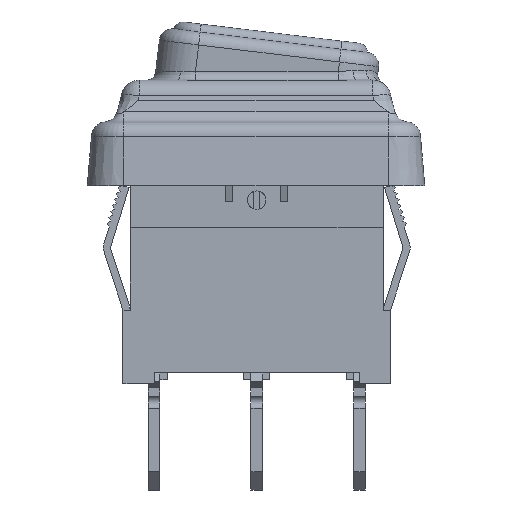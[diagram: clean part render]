
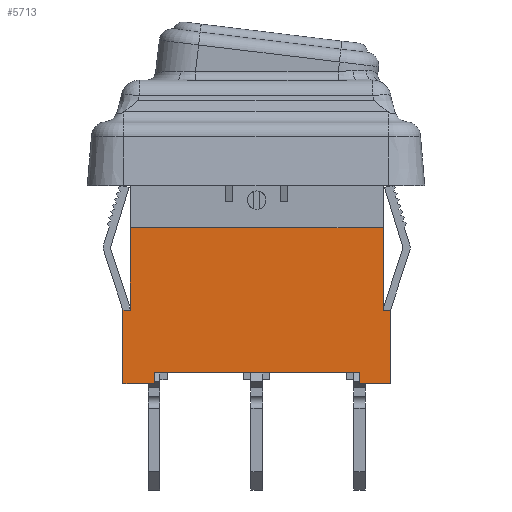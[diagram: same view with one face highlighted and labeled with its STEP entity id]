
A CAD part, front view. The second image highlights one B-rep face of the part: STEP entity #5713.
In plain terms, the highlighted planar face has unit normal (0, -1, 0).
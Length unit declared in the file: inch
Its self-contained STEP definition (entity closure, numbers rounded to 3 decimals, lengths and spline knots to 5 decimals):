
#581=FACE_OUTER_BOUND('',#926,.T.);
#926=EDGE_LOOP('',(#4427,#4428,#4429,#4430,#4431,#4432,#4433,#4434,#4435,
#4436,#4437,#4438));
#1157=LINE('',#8250,#1758);
#1189=LINE('',#8314,#1790);
#1303=LINE('',#8569,#1904);
#1389=LINE('',#8748,#1990);
#1473=LINE('',#8923,#2074);
#1477=LINE('',#8930,#2078);
#1478=LINE('',#8932,#2079);
#1479=LINE('',#8934,#2080);
#1486=LINE('',#8948,#2087);
#1489=LINE('',#8954,#2090);
#1491=LINE('',#8960,#2092);
#1492=LINE('',#8962,#2093);
#1758=VECTOR('',#6596,0.3937);
#1790=VECTOR('',#6630,0.3937);
#1904=VECTOR('',#6872,0.3937);
#1990=VECTOR('',#7026,0.3937);
#2074=VECTOR('',#7178,0.3937);
#2078=VECTOR('',#7184,0.3937);
#2079=VECTOR('',#7187,0.3937);
#2080=VECTOR('',#7190,0.3937);
#2087=VECTOR('',#7205,0.3937);
#2090=VECTOR('',#7210,0.3937);
#2092=VECTOR('',#7220,0.3937);
#2093=VECTOR('',#7223,0.3937);
#2355=VERTEX_POINT('',#8247);
#2356=VERTEX_POINT('',#8249);
#2386=VERTEX_POINT('',#8311);
#2387=VERTEX_POINT('',#8313);
#2463=VERTEX_POINT('',#8567);
#2464=VERTEX_POINT('',#8568);
#2522=VERTEX_POINT('',#8745);
#2523=VERTEX_POINT('',#8747);
#2580=VERTEX_POINT('',#8922);
#2582=VERTEX_POINT('',#8928);
#2585=VERTEX_POINT('',#8946);
#2587=VERTEX_POINT('',#8951);
#2881=EDGE_CURVE('',#2356,#2355,#1157,.T.);
#2913=EDGE_CURVE('',#2386,#2387,#1189,.T.);
#3037=EDGE_CURVE('',#2463,#2464,#1303,.T.);
#3127=EDGE_CURVE('',#2523,#2522,#1389,.T.);
#3215=EDGE_CURVE('',#2463,#2580,#1473,.T.);
#3219=EDGE_CURVE('',#2522,#2582,#1477,.T.);
#3220=EDGE_CURVE('',#2464,#2523,#1478,.T.);
#3221=EDGE_CURVE('',#2580,#2386,#1479,.T.);
#3228=EDGE_CURVE('',#2355,#2585,#1486,.T.);
#3231=EDGE_CURVE('',#2587,#2356,#1489,.T.);
#3233=EDGE_CURVE('',#2587,#2582,#1491,.T.);
#3234=EDGE_CURVE('',#2585,#2387,#1492,.T.);
#4427=ORIENTED_EDGE('',*,*,#3037,.T.);
#4428=ORIENTED_EDGE('',*,*,#3220,.T.);
#4429=ORIENTED_EDGE('',*,*,#3127,.T.);
#4430=ORIENTED_EDGE('',*,*,#3219,.T.);
#4431=ORIENTED_EDGE('',*,*,#3233,.F.);
#4432=ORIENTED_EDGE('',*,*,#3231,.T.);
#4433=ORIENTED_EDGE('',*,*,#2881,.T.);
#4434=ORIENTED_EDGE('',*,*,#3228,.T.);
#4435=ORIENTED_EDGE('',*,*,#3234,.T.);
#4436=ORIENTED_EDGE('',*,*,#2913,.F.);
#4437=ORIENTED_EDGE('',*,*,#3221,.F.);
#4438=ORIENTED_EDGE('',*,*,#3215,.F.);
#5498=PLANE('',#6194);
#5713=ADVANCED_FACE('',(#581),#5498,.T.);
#6194=AXIS2_PLACEMENT_3D('',#8963,#7224,#7225);
#6596=DIRECTION('',(1.,0.,0.));
#6630=DIRECTION('',(0.,0.,-1.));
#6872=DIRECTION('',(-1.,0.,0.));
#7026=DIRECTION('',(-1.,0.,0.));
#7178=DIRECTION('',(0.,0.,-1.));
#7184=DIRECTION('',(0.,0.,-1.));
#7187=DIRECTION('',(0.,0.,-1.));
#7190=DIRECTION('',(1.,0.,0.));
#7205=DIRECTION('',(0.,0.,-1.));
#7210=DIRECTION('',(0.,0.,1.));
#7220=DIRECTION('',(-1.,0.,0.));
#7223=DIRECTION('',(1.,0.,0.));
#7224=DIRECTION('center_axis',(0.,-1.,0.));
#7225=DIRECTION('ref_axis',(-1.,0.,0.));
#8247=CARTESIAN_POINT('',(0.693,0.0595,-0.529));
#8249=CARTESIAN_POINT('',(0.134,0.0595,-0.529));
#8250=CARTESIAN_POINT('',(0.58575,0.0595,-0.529));
#8311=CARTESIAN_POINT('',(0.778,0.0595,-0.36));
#8313=CARTESIAN_POINT('',(0.778,0.0595,-0.56));
#8314=CARTESIAN_POINT('',(0.778,0.0595,-0.56));
#8567=CARTESIAN_POINT('',(0.758,0.0595,-0.135));
#8568=CARTESIAN_POINT('',(0.069,0.0595,-0.135));
#8569=CARTESIAN_POINT('',(0.4135,0.0595,-0.135));
#8745=CARTESIAN_POINT('',(0.049,0.0595,-0.36));
#8747=CARTESIAN_POINT('',(0.069,0.0595,-0.36));
#8748=CARTESIAN_POINT('',(0.069,0.0595,-0.36));
#8922=CARTESIAN_POINT('',(0.758,0.0595,-0.36));
#8923=CARTESIAN_POINT('',(0.758,0.0595,0.));
#8928=CARTESIAN_POINT('',(0.049,0.0595,-0.56));
#8930=CARTESIAN_POINT('',(0.049,0.0595,-0.56));
#8932=CARTESIAN_POINT('',(0.069,0.0595,0.));
#8934=CARTESIAN_POINT('',(0.758,0.0595,-0.36));
#8946=CARTESIAN_POINT('',(0.693,0.0595,-0.56));
#8948=CARTESIAN_POINT('',(0.693,0.0595,-0.28));
#8951=CARTESIAN_POINT('',(0.134,0.0595,-0.56));
#8954=CARTESIAN_POINT('',(0.134,0.0595,-0.28));
#8960=CARTESIAN_POINT('',(0.069,0.0595,-0.56));
#8962=CARTESIAN_POINT('',(0.758,0.0595,-0.56));
#8963=CARTESIAN_POINT('Origin',(0.758,0.0595,0.));
